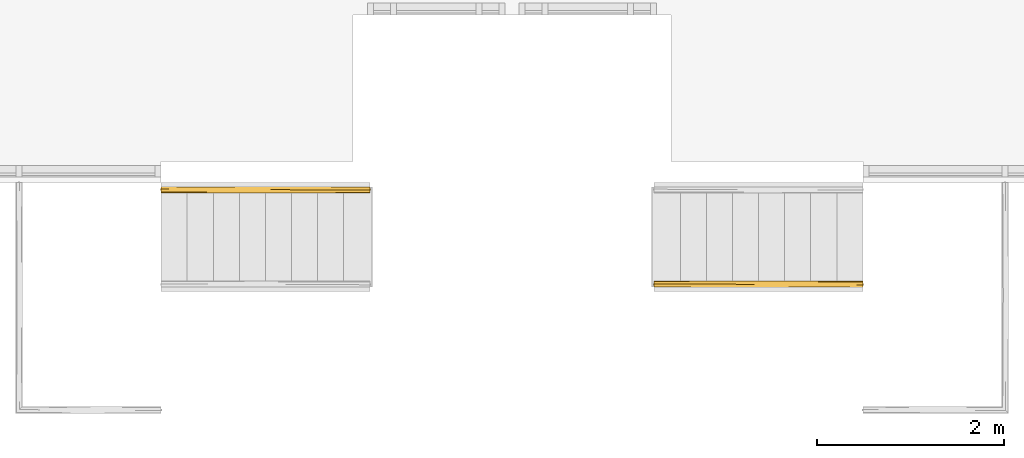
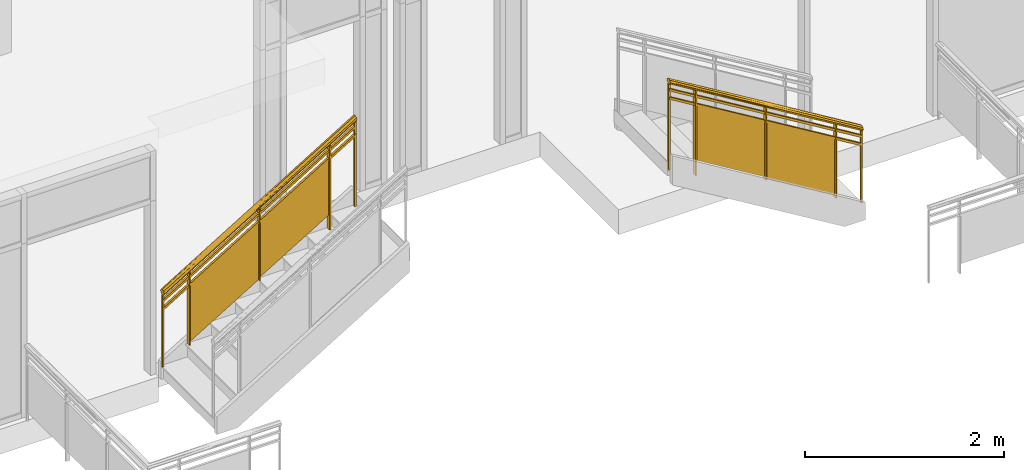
# One storey, part 9 of 11: 2 railings, 2 elements without a shape of their own.
"""IFC2X3 building model written with IfcOpenShell, lengths in feet."""

from ifc_helpers import new_model, entity, si_unit, converted_unit, derived_unit, direction, frame, origin, place, context, subcontext, project, spatial, faceted_brep, material, material_list, element, aggregate, save


model = new_model("IFC2X3")

# Units and contexts
model_context = context("Model", 3, precision=0.0001, world=origin(), true_north=direction((6.12303176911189e-17, 1.0)))
body_context = subcontext(model_context, "Body", "Model", "MODEL_VIEW")
ifc_project = project(units=[converted_unit("LENGTHUNIT", "FOOT", entity("IfcRatioMeasure", 0.3048), si_unit("LENGTHUNIT", "METRE"), dimensions=[1, 0, 0, 0, 0, 0, 0]), converted_unit("AREAUNIT", "SQUARE FOOT", entity("IfcRatioMeasure", 0.09290304), si_unit("AREAUNIT", "SQUARE_METRE"), dimensions=[2, 0, 0, 0, 0, 0, 0]), converted_unit("VOLUMEUNIT", "CUBIC FOOT", entity("IfcRatioMeasure", 0.028316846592), si_unit("VOLUMEUNIT", "CUBIC_METRE"), dimensions=[3, 0, 0, 0, 0, 0, 0]), converted_unit("PLANEANGLEUNIT", "DEGREE", entity("IfcRatioMeasure", 0.0174532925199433), si_unit("PLANEANGLEUNIT", "RADIAN"), dimensions=[0, 0, 0, 0, 0, 0, 0]), si_unit("MASSUNIT", "GRAM", prefix="KILO"), derived_unit("MASSDENSITYUNIT", [(si_unit("MASSUNIT", "GRAM", prefix="KILO"), 1), (si_unit("LENGTHUNIT", "METRE"), -3)]), si_unit("TIMEUNIT", "SECOND"), si_unit("FREQUENCYUNIT", "HERTZ"), si_unit("THERMODYNAMICTEMPERATUREUNIT", "DEGREE_CELSIUS"), derived_unit("THERMALTRANSMITTANCEUNIT", [(si_unit("MASSUNIT", "GRAM", prefix="KILO"), 1), (si_unit("THERMODYNAMICTEMPERATUREUNIT", "KELVIN"), -1), (si_unit("TIMEUNIT", "SECOND"), -3)]), derived_unit("VOLUMETRICFLOWRATEUNIT", [(si_unit("LENGTHUNIT", "METRE"), 3), (si_unit("TIMEUNIT", "SECOND"), -1)]), si_unit("ELECTRICCURRENTUNIT", "AMPERE"), si_unit("ELECTRICVOLTAGEUNIT", "VOLT"), si_unit("POWERUNIT", "WATT"), si_unit("FORCEUNIT", "NEWTON"), si_unit("ILLUMINANCEUNIT", "LUX"), si_unit("LUMINOUSFLUXUNIT", "LUMEN"), si_unit("LUMINOUSINTENSITYUNIT", "CANDELA"), derived_unit("USERDEFINED", [(si_unit("MASSUNIT", "GRAM", prefix="KILO"), -1), (si_unit("LENGTHUNIT", "METRE"), -2), (si_unit("TIMEUNIT", "SECOND"), 3), (si_unit("LUMINOUSFLUXUNIT", "LUMEN"), 1)]), derived_unit("LINEARVELOCITYUNIT", [(si_unit("LENGTHUNIT", "METRE"), 1), (si_unit("TIMEUNIT", "SECOND"), -1)]), si_unit("PRESSUREUNIT", "PASCAL"), derived_unit("USERDEFINED", [(si_unit("LENGTHUNIT", "METRE"), -2), (si_unit("MASSUNIT", "GRAM", prefix="KILO"), 1), (si_unit("TIMEUNIT", "SECOND"), -2)])], contexts=[model_context])

# Site, building, storey
site_placement = place(None, origin())
site = spatial("IfcSite", under=ifc_project, at=site_placement, Name="Default", CompositionType="ELEMENT")
building_placement = place(site_placement, origin())
building = spatial("IfcBuilding", under=site, at=building_placement, CompositionType="ELEMENT")
storey_placement = place(building_placement, frame((0.0, 0.0, 50.0)))
storey = spatial("IfcBuildingStorey", under=building, at=storey_placement, Name="L 9", CompositionType="ELEMENT", Elevation=49.9999999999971)

# Stair, railing
stair_1_placement = place(storey_placement, origin())
stair_1 = element("IfcStair", 1, at=stair_1_placement, inside=storey, Name="Assembled Stair:Stair", ObjectType="Assembled Stair:7\" max riser 11\" tread", ShapeType="NOTDEFINED")
ifc_material_1 = material(Name="Glass")
ifc_material_2 = material(Name="alum - color")
ifc_material_list_1 = material_list([ifc_material_1, ifc_material_2])
railing_1_placement = place(stair_1_placement, frame((-46.3459961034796, -7.71720842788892, 0.555555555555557)))
railing_1 = element("IfcRailing", 2, at=railing_1_placement, material=ifc_material_list_1, Name="Railing:Glass Panel - Bottom Fill", ObjectType="Railing:Glass Panel - Bottom Fill", PredefinedType="NOTDEFINED", context=body_context, shape_type="Brep", body=[
    faceted_brep([(6.33333333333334, 0.213567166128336, 6.71557302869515), (6.33333333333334, 0.213567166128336, 3.33333333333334), (6.33333333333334, 0.0469004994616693, 3.33333333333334), (6.33333333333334, 0.0469004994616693, 6.71557302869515), (6.37500000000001, 0.213567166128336, 6.74082555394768), (6.37500000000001, 0.213567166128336, 3.33333333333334), (6.37500000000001, 0.0469004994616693, 6.74082555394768), (6.37500000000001, 0.0469004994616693, 3.33333333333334)], [[[0, 1, 2, 3]], [[4, 5, 1, 0]], [[6, 7, 5, 4]], [[3, 2, 7, 6]], [[3, 6, 4, 0]], [[1, 5, 7, 2]]]),
    faceted_brep([(3.6875, 0.108793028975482, 2.30303030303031), (6.35416666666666, 0.108793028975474, 3.91919191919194), (6.35416666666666, 0.108793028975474, 6.12299550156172), (3.6875, 0.108793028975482, 4.50683388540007), (3.6875, 0.129626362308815, 2.30303030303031), (3.6875, 0.129626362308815, 4.50683388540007), (6.35416666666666, 0.129626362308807, 6.12299550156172), (6.35416666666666, 0.129626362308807, 3.91919191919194)], [[[0, 1, 2, 3]], [[4, 5, 6, 7]], [[3, 5, 4, 0]], [[2, 6, 5, 3]], [[1, 7, 6, 2]], [[0, 4, 7, 1]]]),
    faceted_brep([(3.66666666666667, 0.213567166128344, 5.09941141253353), (3.66666666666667, 0.213567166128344, 2.22222222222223), (3.66666666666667, 0.0469004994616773, 2.22222222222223), (3.66666666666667, 0.0469004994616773, 5.09941141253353), (3.70833333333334, 0.213567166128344, 5.12466393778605), (3.70833333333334, 0.213567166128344, 2.22222222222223), (3.70833333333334, 0.0469004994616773, 5.12466393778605), (3.70833333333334, 0.0469004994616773, 2.22222222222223)], [[[0, 1, 2, 3]], [[4, 5, 1, 0]], [[6, 7, 5, 4]], [[3, 2, 7, 6]], [[3, 6, 4, 0]], [[1, 5, 7, 2]]]),
    faceted_brep([(1.02083333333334, 0.108793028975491, 0.636363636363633), (3.6875, 0.108793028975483, 2.25252525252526), (3.6875, 0.108793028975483, 4.50683388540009), (1.02083333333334, 0.108793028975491, 2.89067226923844), (1.02083333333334, 0.129626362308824, 0.636363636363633), (1.02083333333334, 0.129626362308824, 2.89067226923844), (3.6875, 0.129626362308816, 4.50683388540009), (3.6875, 0.129626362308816, 2.25252525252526)], [[[0, 1, 2, 3]], [[4, 5, 6, 7]], [[3, 5, 4, 0]], [[2, 6, 5, 3]], [[1, 7, 6, 2]], [[0, 4, 7, 1]]]),
    faceted_brep([(1.0, 0.213567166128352, 3.48324979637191), (1.0, 0.213567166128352, 0.555555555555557), (1.0, 0.0469004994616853, 0.555555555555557), (1.0, 0.0469004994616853, 3.48324979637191), (1.04166666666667, 0.213567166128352, 3.50850232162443), (1.04166666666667, 0.213567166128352, 0.555555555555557), (1.04166666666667, 0.0469004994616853, 3.50850232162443), (1.04166666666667, 0.0469004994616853, 0.555555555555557)], [[[0, 1, 2, 3]], [[4, 5, 1, 0]], [[6, 7, 5, 4]], [[3, 2, 7, 6]], [[3, 6, 4, 0]], [[1, 5, 7, 2]]]),
    faceted_brep([(7.31250000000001, 0.161483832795, 7.3090073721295), (7.31250000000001, 0.161483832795, 3.8888888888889), (7.31250000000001, 0.0989838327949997, 3.8888888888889), (7.31250000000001, 0.0989838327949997, 7.3090073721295), (7.37500000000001, 0.161483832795, 7.34688616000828), (7.37500000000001, 0.161483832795, 3.8888888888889), (7.37500000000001, 0.0989838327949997, 7.34688616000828), (7.37500000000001, 0.0989838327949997, 3.8888888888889)], [[[0, 1, 2, 3]], [[4, 5, 1, 0]], [[6, 7, 5, 4]], [[3, 2, 7, 6]], [[3, 6, 4, 0]], [[1, 5, 7, 2]]]),
    faceted_brep([(0.0, 0.161483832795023, 2.8771891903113), (0.0, 0.161483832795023, 0.0), (0.0, 0.0989838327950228, 0.0), (0.0, 0.0989838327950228, 2.8771891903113), (0.0625, 0.161483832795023, 2.91506797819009), (0.0625, 0.161483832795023, 0.0), (0.0625, 0.0989838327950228, 2.91506797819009), (0.0625, 0.0989838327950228, 0.0)], [[[0, 1, 2, 3]], [[4, 5, 1, 0]], [[6, 7, 5, 4]], [[3, 2, 7, 6]], [[3, 6, 4, 0]], [[1, 5, 7, 2]]]),
    faceted_brep([(0.0208333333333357, 0.17190049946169, 2.71538833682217), (0.0208333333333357, 0.17190049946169, 2.61794499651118), (0.0208333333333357, 0.0885671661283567, 2.61794499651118), (0.0208333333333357, 0.0885671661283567, 2.71538833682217), (7.35416666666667, 0.171900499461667, 7.15983278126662), (7.35416666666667, 0.0885671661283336, 7.15983278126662), (7.35416666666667, 0.0885671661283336, 7.06238944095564), (7.35416666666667, 0.171900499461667, 7.06238944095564)], [[[0, 1, 2, 3]], [[4, 5, 6, 7]], [[1, 0, 4, 7]], [[2, 1, 7, 6]], [[3, 2, 6, 5]], [[0, 3, 5, 4]]]),
    faceted_brep([(0.0208333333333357, 0.17190049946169, 2.38205500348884), (0.0208333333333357, 0.17190049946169, 2.28461166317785), (0.0208333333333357, 0.0885671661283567, 2.28461166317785), (0.0208333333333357, 0.0885671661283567, 2.38205500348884), (7.35416666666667, 0.171900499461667, 6.82649944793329), (7.35416666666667, 0.0885671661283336, 6.82649944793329), (7.35416666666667, 0.0885671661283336, 6.72905610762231), (7.35416666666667, 0.171900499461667, 6.72905610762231)], [[[0, 1, 2, 3]], [[4, 5, 6, 7]], [[1, 0, 4, 7]], [[2, 1, 7, 6]], [[3, 2, 6, 5]], [[0, 3, 5, 4]]]),
    faceted_brep([(0.0208333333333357, 0.0465925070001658, 3.08146632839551), (0.0208333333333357, 0.0949461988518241, 3.09524477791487), (0.0208333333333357, 0.14329989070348, 3.10902322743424), (0.0208333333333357, 0.187330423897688, 3.08672922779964), (0.0208333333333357, 0.231360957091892, 3.06443522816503), (0.0208333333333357, 0.243297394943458, 3.03221761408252), (0.0208333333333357, 0.255233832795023, 3.0), (0.0208333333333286, 0.234554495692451, 2.95926683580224), (0.0208333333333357, 0.213875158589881, 2.9185336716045), (0.0208333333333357, 0.165521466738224, 2.90475522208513), (0.0208333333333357, 0.141344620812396, 2.89786599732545), (0.0208333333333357, 0.117167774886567, 2.89097677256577), (0.0208333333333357, 0.0731372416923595, 2.91327077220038), (0.0208333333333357, 0.0291067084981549, 2.93556477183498), (0.0208333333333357, 0.017170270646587, 2.96778238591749), (0.0208333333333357, 0.00523383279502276, 3.0), (0.0208333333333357, 0.0259131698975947, 3.04073316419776), (7.35416666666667, 0.0259131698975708, 7.40371128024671), (7.35416666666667, 0.0465925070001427, 7.36297811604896), (7.35416666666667, 0.0949461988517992, 7.3491996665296), (7.35416666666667, 0.143299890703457, 7.33542121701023), (7.35416666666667, 0.187330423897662, 7.35771521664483), (7.35416666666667, 0.231360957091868, 7.38000921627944), (7.35416666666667, 0.243297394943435, 7.41222683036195), (7.35416666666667, 0.255233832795, 7.44444444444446), (7.35416666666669, 0.24437897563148, 7.46582582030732), (7.35416666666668, 0.234554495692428, 7.48517760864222), (7.35416666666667, 0.213875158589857, 7.52591077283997), (7.35416666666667, 0.165521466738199, 7.53968922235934), (7.35416666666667, 0.117167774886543, 7.5534676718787), (7.35416666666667, 0.0951525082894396, 7.5423206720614), (7.35416666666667, 0.0731372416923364, 7.53117367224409), (7.35416666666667, 0.0291067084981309, 7.50887967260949), (7.35416666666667, 0.0171702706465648, 7.47666205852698), (7.35416666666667, 0.00523383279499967, 7.44444444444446), (3.7002905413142, 0.246755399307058, 5.19028869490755), (3.87247818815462, 0.177511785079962, 5.23284993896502), (3.91578387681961, 0.207600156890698, 5.27447257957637), (3.07871506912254, 0.231313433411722, 4.78876910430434), (3.15947604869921, 0.255233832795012, 4.90220770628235), (4.21550890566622, 0.25523383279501, 5.54222761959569), (4.04114830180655, 0.0629732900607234, 5.34415364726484), (3.22585875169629, 0.0946029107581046, 4.83736380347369), (3.68929300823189, 0.130201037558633, 5.11368513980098), (3.72718018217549, 0.0367721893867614, 5.17347577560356), (3.44651497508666, 0.0177333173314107, 5.02838773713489), (3.159490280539, 0.00523383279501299, 4.9022163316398), (3.5478317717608, 0.0115093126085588, 5.17187272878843), (3.33044597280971, 0.0259810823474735, 5.06630868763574), (4.14481111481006, 0.0490518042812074, 5.5827382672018), (3.68590222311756, 0.0794402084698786, 5.32141906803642), (3.19149194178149, 0.251785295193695, 4.94718335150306), (3.5434095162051, 0.127144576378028, 5.24448493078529), (3.42716626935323, 0.161623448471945, 5.17055526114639), (3.59902271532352, 0.221853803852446, 5.24317359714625), (3.37926588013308, 0.241652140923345, 5.08510860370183), (4.26044448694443, 0.193327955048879, 5.66409552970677)], [[[0, 1, 2, 3, 4, 5, 6, 7, 8, 9, 10, 11, 12, 13, 14, 15, 16]], [[17, 18, 19, 20, 21, 22, 23, 24, 25, 26, 27, 28, 29, 30, 31, 32, 33, 34]], [[35, 7, 6]], [[9, 8, 36, 10]], [[22, 37, 38]], [[37, 36, 8]], [[21, 36, 37]], [[35, 6, 39, 40]], [[41, 42, 19]], [[38, 7, 35]], [[19, 42, 43]], [[44, 41, 18]], [[13, 45, 14]], [[8, 38, 37]], [[44, 12, 41]], [[38, 8, 7]], [[11, 43, 42]], [[17, 34, 46]], [[35, 23, 22]], [[11, 10, 43]], [[40, 24, 23]], [[21, 37, 22]], [[36, 21, 20]], [[36, 20, 43]], [[36, 43, 10]], [[43, 20, 19]], [[42, 12, 11]], [[12, 42, 41]], [[13, 12, 44]], [[18, 41, 19]], [[46, 15, 14]], [[44, 18, 17]], [[17, 45, 44]], [[38, 35, 22]], [[45, 17, 46]], [[23, 35, 40]], [[44, 45, 13]], [[14, 45, 46]], [[16, 47, 48]], [[0, 48, 49]], [[49, 31, 50]], [[31, 30, 50]], [[51, 26, 25]], [[2, 52, 53]], [[54, 27, 26]], [[54, 55, 4]], [[26, 51, 55]], [[47, 16, 15]], [[54, 26, 55]], [[5, 4, 55]], [[25, 24, 40, 39]], [[56, 54, 3]], [[56, 3, 53]], [[50, 0, 49]], [[27, 54, 56]], [[51, 39, 6]], [[53, 52, 28]], [[54, 4, 3]], [[56, 28, 27]], [[28, 56, 53]], [[5, 55, 51]], [[29, 28, 52]], [[2, 53, 3]], [[30, 29, 52]], [[52, 2, 1]], [[1, 0, 50]], [[52, 50, 30]], [[1, 50, 52]], [[49, 32, 31]], [[32, 49, 48]], [[33, 48, 47]], [[16, 48, 0]], [[46, 34, 47, 15]], [[33, 32, 48]], [[33, 47, 34]], [[5, 51, 6]], [[39, 51, 25]]]),
])
aggregate(stair_1, [railing_1])

stair_2_placement = place(storey_placement, origin())
stair_2 = element("IfcStair", 3, at=stair_2_placement, inside=storey, Name="Assembled Stair:Stair", ObjectType="Assembled Stair:7\" max riser 11\" tread", ShapeType="NOTDEFINED")
ifc_material_list_2 = material_list([ifc_material_1, ifc_material_2])
railing_2_placement = place(stair_2_placement, frame((-29.0126627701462, -11.0505417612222, 0.555555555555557)))
railing_2 = element("IfcRailing", 4, at=railing_2_placement, material=ifc_material_list_2, Name="Railing:Glass Panel - Bottom Fill", ObjectType="Railing:Glass Panel - Bottom Fill", PredefinedType="NOTDEFINED", context=body_context, shape_type="Brep", body=[
    faceted_brep([(1.04166666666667, 0.0469004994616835, 6.71557302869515), (1.04166666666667, 0.0469004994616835, 3.33333333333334), (1.04166666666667, 0.213567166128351, 3.33333333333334), (1.04166666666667, 0.213567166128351, 6.71557302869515), (1.0, 0.0469004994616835, 6.74082555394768), (1.0, 0.0469004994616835, 3.33333333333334), (1.0, 0.213567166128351, 6.74082555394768), (1.0, 0.213567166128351, 3.33333333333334)], [[[0, 1, 2, 3]], [[4, 5, 1, 0]], [[6, 7, 5, 4]], [[3, 2, 7, 6]], [[3, 6, 4, 0]], [[1, 5, 7, 2]]]),
    faceted_brep([(3.6875, 0.151674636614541, 2.30303030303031), (1.02083333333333, 0.151674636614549, 3.91919191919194), (1.02083333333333, 0.151674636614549, 6.12299550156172), (3.6875, 0.151674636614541, 4.50683388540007), (3.6875, 0.130841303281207, 2.30303030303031), (3.6875, 0.130841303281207, 4.50683388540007), (1.02083333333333, 0.130841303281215, 6.12299550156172), (1.02083333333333, 0.130841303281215, 3.91919191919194)], [[[0, 1, 2, 3]], [[4, 5, 6, 7]], [[3, 5, 4, 0]], [[2, 6, 5, 3]], [[1, 7, 6, 2]], [[0, 4, 7, 1]]]),
    faceted_brep([(3.70833333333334, 0.0469004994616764, 5.09941141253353), (3.70833333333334, 0.0469004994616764, 2.22222222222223), (3.70833333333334, 0.213567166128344, 2.22222222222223), (3.70833333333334, 0.213567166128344, 5.09941141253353), (3.66666666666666, 0.0469004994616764, 5.12466393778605), (3.66666666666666, 0.0469004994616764, 2.22222222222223), (3.66666666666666, 0.213567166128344, 5.12466393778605), (3.66666666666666, 0.213567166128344, 2.22222222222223)], [[[0, 1, 2, 3]], [[4, 5, 1, 0]], [[6, 7, 5, 4]], [[3, 2, 7, 6]], [[3, 6, 4, 0]], [[1, 5, 7, 2]]]),
    faceted_brep([(6.35416666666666, 0.151674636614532, 0.636363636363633), (3.6875, 0.151674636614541, 2.25252525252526), (3.6875, 0.151674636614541, 4.50683388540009), (6.35416666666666, 0.151674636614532, 2.89067226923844), (6.35416666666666, 0.130841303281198, 0.636363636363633), (6.35416666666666, 0.130841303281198, 2.89067226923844), (3.6875, 0.130841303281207, 4.50683388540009), (3.6875, 0.130841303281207, 2.25252525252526)], [[[0, 1, 2, 3]], [[4, 5, 6, 7]], [[3, 5, 4, 0]], [[2, 6, 5, 3]], [[1, 7, 6, 2]], [[0, 4, 7, 1]]]),
    faceted_brep([(6.375, 0.0469004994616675, 3.48324979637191), (6.375, 0.0469004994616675, 0.555555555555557), (6.375, 0.213567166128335, 0.555555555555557), (6.375, 0.213567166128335, 3.48324979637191), (6.33333333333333, 0.0469004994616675, 3.50850232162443), (6.33333333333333, 0.0469004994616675, 0.555555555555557), (6.33333333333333, 0.213567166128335, 3.50850232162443), (6.33333333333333, 0.213567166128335, 0.555555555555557)], [[[0, 1, 2, 3]], [[4, 5, 1, 0]], [[6, 7, 5, 4]], [[3, 2, 7, 6]], [[3, 6, 4, 0]], [[1, 5, 7, 2]]]),
    faceted_brep([(0.0625, 0.098983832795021, 7.3090073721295), (0.0625, 0.098983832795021, 3.8888888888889), (0.0625, 0.161483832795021, 3.8888888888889), (0.0625, 0.161483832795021, 7.3090073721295), (0.0, 0.098983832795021, 7.34688616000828), (0.0, 0.098983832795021, 3.8888888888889), (0.0, 0.161483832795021, 7.34688616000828), (0.0, 0.161483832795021, 3.8888888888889)], [[[0, 1, 2, 3]], [[4, 5, 1, 0]], [[6, 7, 5, 4]], [[3, 2, 7, 6]], [[3, 6, 4, 0]], [[1, 5, 7, 2]]]),
    faceted_brep([(7.375, 0.0989838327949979, 2.8771891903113), (7.375, 0.0989838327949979, 0.0), (7.375, 0.161483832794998, 0.0), (7.375, 0.161483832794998, 2.8771891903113), (7.3125, 0.0989838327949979, 2.91506797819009), (7.3125, 0.0989838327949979, 0.0), (7.3125, 0.161483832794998, 2.91506797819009), (7.3125, 0.161483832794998, 0.0)], [[[0, 1, 2, 3]], [[4, 5, 1, 0]], [[6, 7, 5, 4]], [[3, 2, 7, 6]], [[3, 6, 4, 0]], [[1, 5, 7, 2]]]),
    faceted_brep([(7.35416666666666, 0.0885671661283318, 2.71538833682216), (7.35416666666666, 0.0885671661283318, 2.61794499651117), (7.35416666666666, 0.171900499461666, 2.61794499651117), (7.35416666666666, 0.171900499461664, 2.71538833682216), (0.0208333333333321, 0.0885671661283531, 7.15983278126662), (0.0208333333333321, 0.171900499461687, 7.15983278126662), (0.0208333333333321, 0.171900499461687, 7.06238944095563), (0.0208333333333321, 0.0885671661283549, 7.06238944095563)], [[[0, 1, 2, 3]], [[4, 5, 6, 7]], [[1, 0, 4, 7]], [[2, 1, 7, 6]], [[3, 2, 6, 5]], [[0, 3, 5, 4]]]),
    faceted_brep([(7.35416666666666, 0.0885671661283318, 2.38205500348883), (7.35416666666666, 0.0885671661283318, 2.28461166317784), (7.35416666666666, 0.171900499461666, 2.28461166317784), (7.35416666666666, 0.171900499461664, 2.38205500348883), (0.0208333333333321, 0.0885671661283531, 6.82649944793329), (0.0208333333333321, 0.171900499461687, 6.82649944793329), (0.0208333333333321, 0.171900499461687, 6.7290561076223), (0.0208333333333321, 0.0885671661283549, 6.7290561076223)], [[[0, 1, 2, 3]], [[4, 5, 6, 7]], [[1, 0, 4, 7]], [[2, 1, 7, 6]], [[3, 2, 6, 5]], [[0, 3, 5, 4]]]),
    faceted_brep([(7.35416666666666, 0.213875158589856, 3.08146632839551), (7.35416666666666, 0.165521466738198, 3.09524477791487), (7.35416666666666, 0.117167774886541, 3.10902322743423), (7.35416666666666, 0.0731372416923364, 3.08672922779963), (7.35416666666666, 0.02910670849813, 3.06443522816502), (7.35416666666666, 0.0171702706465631, 3.03221761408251), (7.35416666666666, 0.00523383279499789, 3.0), (7.35416666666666, 0.0259131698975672, 2.95926683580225), (7.35416666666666, 0.0465925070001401, 2.91853367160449), (7.35416666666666, 0.0949461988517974, 2.90475522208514), (7.35416666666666, 0.119123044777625, 2.89786599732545), (7.35416666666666, 0.143299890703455, 2.89097677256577), (7.35416666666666, 0.187330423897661, 2.91327077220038), (7.35416666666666, 0.231360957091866, 2.93556477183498), (7.35416666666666, 0.243297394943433, 2.96778238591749), (7.35416666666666, 0.255233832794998, 3.0), (7.35416666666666, 0.234554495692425, 3.04073316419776), (0.0208333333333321, 0.234554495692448, 7.40371128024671), (0.0208333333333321, 0.213875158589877, 7.36297811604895), (0.0208333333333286, 0.16552146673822, 7.34919966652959), (0.0208333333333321, 0.117167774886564, 7.33542121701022), (0.0208333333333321, 0.0731372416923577, 7.35771521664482), (0.0208333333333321, 0.0291067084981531, 7.38000921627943), (0.0208333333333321, 0.0171702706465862, 7.41222683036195), (0.0208333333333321, 0.00523383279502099, 7.44444444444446), (0.0208333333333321, 0.0160886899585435, 7.46582582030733), (0.0208333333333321, 0.0259131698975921, 7.48517760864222), (0.0208333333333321, 0.0465925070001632, 7.52591077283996), (0.0208333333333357, 0.0949461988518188, 7.53968922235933), (0.0208333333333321, 0.143299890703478, 7.55346767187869), (0.0208333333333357, 0.165315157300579, 7.54232067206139), (0.0208333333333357, 0.187330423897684, 7.53117367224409), (0.0208333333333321, 0.231360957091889, 7.50887967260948), (0.0208333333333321, 0.243297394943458, 7.47666205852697), (0.0208333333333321, 0.255233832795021, 7.44444444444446), (3.6747094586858, 0.0137122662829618, 5.19028869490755), (3.50252181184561, 0.0829558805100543, 5.23284993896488), (3.45921612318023, 0.0528675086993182, 5.27447257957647), (4.29628493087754, 0.0291542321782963, 4.78876910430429), (4.21550848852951, 0.00523383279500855, 4.90221707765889), (3.15949109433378, 0.00523383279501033, 5.54222761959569), (3.33385169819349, 0.197494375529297, 5.34415364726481), (4.14914124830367, 0.165864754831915, 4.83736380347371), (3.68570699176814, 0.130266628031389, 5.11368513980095), (3.64781981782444, 0.223695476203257, 5.17347577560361), (3.92848502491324, 0.242734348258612, 5.02838773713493), (4.21552203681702, 0.255233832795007, 4.90220886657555), (3.82716822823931, 0.248958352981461, 5.17187272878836), (4.04455402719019, 0.234486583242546, 5.06630868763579), (3.23018888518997, 0.211415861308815, 5.58273826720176), (3.68909777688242, 0.181027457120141, 5.32141906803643), (4.18350805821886, 0.00868237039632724, 4.94718335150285), (3.83159048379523, 0.133323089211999, 5.24448493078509), (3.9478337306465, 0.0988442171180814, 5.17055526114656), (3.77597728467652, 0.0386138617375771, 5.24317359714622), (3.99573411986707, 0.0188155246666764, 5.08510860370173), (3.11455551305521, 0.0671397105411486, 5.66409552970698)], [[[0, 1, 2, 3, 4, 5, 6, 7, 8, 9, 10, 11, 12, 13, 14, 15, 16]], [[17, 18, 19, 20, 21, 22, 23, 24, 25, 26, 27, 28, 29, 30, 31, 32, 33, 34]], [[35, 7, 6]], [[9, 8, 36, 10]], [[22, 37, 38]], [[37, 36, 8]], [[21, 36, 37]], [[35, 6, 39, 40]], [[41, 42, 19]], [[38, 7, 35]], [[19, 42, 43]], [[44, 41, 18]], [[13, 45, 14]], [[8, 38, 37]], [[44, 12, 41]], [[38, 8, 7]], [[11, 43, 42]], [[17, 34, 46]], [[35, 23, 22]], [[11, 10, 43]], [[40, 24, 23]], [[21, 37, 22]], [[36, 21, 20]], [[36, 20, 43]], [[36, 43, 10]], [[43, 20, 19]], [[42, 12, 11]], [[12, 42, 41]], [[13, 12, 44]], [[18, 41, 19]], [[46, 15, 14]], [[44, 18, 17]], [[17, 45, 44]], [[38, 35, 22]], [[45, 17, 46]], [[23, 35, 40]], [[44, 45, 13]], [[14, 45, 46]], [[16, 47, 48]], [[0, 48, 49]], [[49, 31, 50]], [[31, 30, 50]], [[51, 26, 25]], [[2, 52, 53]], [[54, 27, 26]], [[54, 55, 4]], [[26, 51, 55]], [[47, 16, 15]], [[54, 26, 55]], [[5, 4, 55]], [[25, 24, 40, 39]], [[56, 54, 3]], [[56, 3, 53]], [[50, 0, 49]], [[27, 54, 56]], [[51, 39, 6]], [[53, 52, 28]], [[54, 4, 3]], [[56, 28, 27]], [[28, 56, 53]], [[5, 55, 51]], [[29, 28, 52]], [[2, 53, 3]], [[30, 29, 52]], [[52, 2, 1]], [[1, 0, 50]], [[52, 50, 30]], [[1, 50, 52]], [[49, 32, 31]], [[32, 49, 48]], [[33, 48, 47]], [[16, 48, 0]], [[46, 34, 47, 15]], [[33, 32, 48]], [[33, 47, 34]], [[5, 51, 6]], [[39, 51, 25]]]),
])
aggregate(stair_2, [railing_2])

save(model, "model.ifc")
